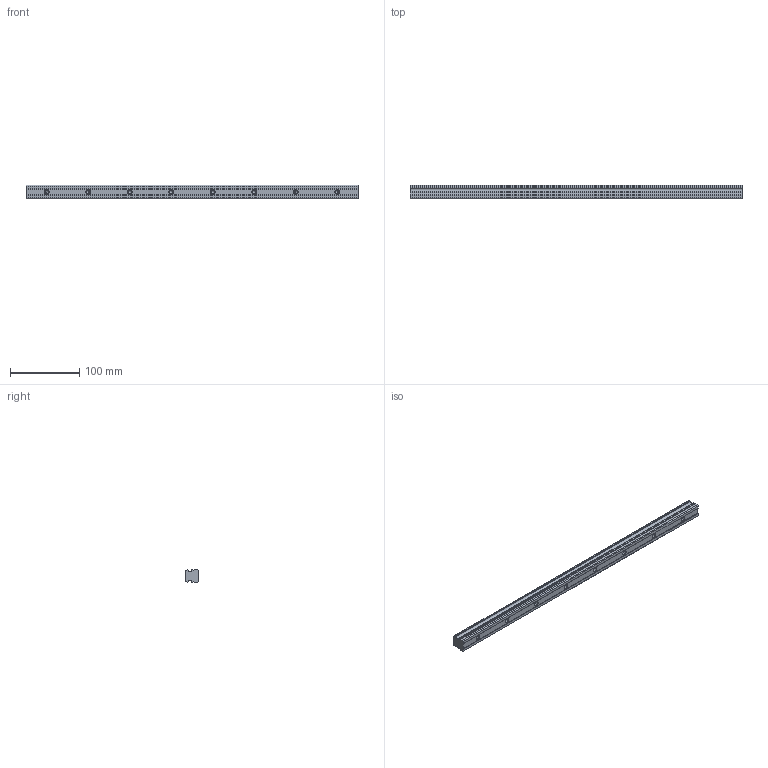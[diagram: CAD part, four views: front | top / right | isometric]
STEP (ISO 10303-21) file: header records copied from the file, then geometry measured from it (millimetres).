
FILE_DESCRIPTION (( 'STEP AP203' ), '1' );
FILE_NAME ('L1018.20R-0480.step', '2023-08-06T09:05:14', ( '' ), ( '' ), 'SwSTEP 2.0', 'SolidWorks 2019', '' );
FILE_SCHEMA (( 'CONFIG_CONTROL_DESIGN' ));
Length unit declared in the file: millimetre
Products named in the file (1): L1018.20R-0480
Bounding box: 480 x 19.3 x 20 mm (x, y, z)
Volume: 152221.6 mm3; surface area: 41153.6 mm2
Topology: 1 solids, 1 shells, 101 faces, 241 edges, 142 vertices
Faces by surface type: cylinder 35, plane 34, cone 32
Entity records: 2870 total; most frequent: DIRECTION 515, CARTESIAN_POINT 469, ORIENTED_EDGE 450, EDGE_CURVE 225, AXIS2_PLACEMENT_3D 188, VERTEX_POINT 142, LINE 139, VECTOR 139
